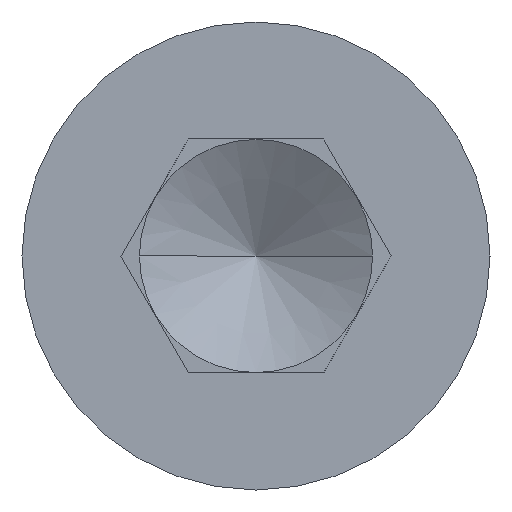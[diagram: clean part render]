
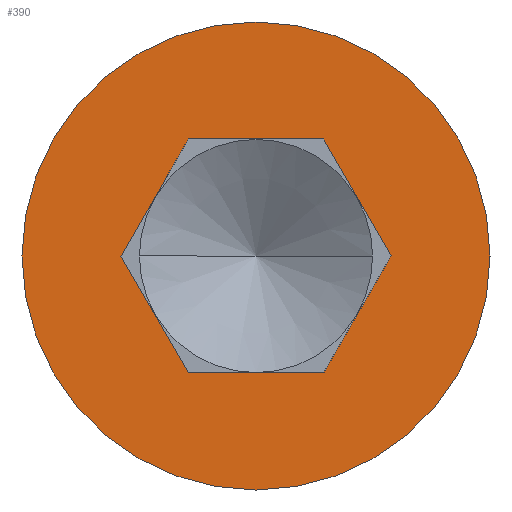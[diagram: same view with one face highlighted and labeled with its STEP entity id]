
A CAD part, left-side view. The second image highlights one B-rep face of the part: STEP entity #390.
In plain terms, the highlighted planar face has unit normal (-1, 0, 0).
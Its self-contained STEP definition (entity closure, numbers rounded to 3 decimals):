
#7 = DIRECTION ( 'NONE',  ( 0., -0.5, -0.866 ) ) ;
#12 = VERTEX_POINT ( 'NONE', #63 ) ;
#23 = VECTOR ( 'NONE', #191, 1000. ) ;
#26 = EDGE_CURVE ( 'NONE', #111, #368, #434, .T. ) ;
#27 = DIRECTION ( 'NONE',  ( 0., 0.5, -0.866 ) ) ;
#50 = VERTEX_POINT ( 'NONE', #158 ) ;
#55 = VECTOR ( 'NONE', #252, 1000. ) ;
#59 = LINE ( 'NONE', #425, #387 ) ;
#63 = CARTESIAN_POINT ( 'NONE',  ( -6., 1.443, -2.5 ) ) ;
#64 = VECTOR ( 'NONE', #72, 1000. ) ;
#67 = FACE_OUTER_BOUND ( 'NONE', #367, .T. ) ;
#70 = ORIENTED_EDGE ( 'NONE', *, *, #204, .F. ) ;
#72 = DIRECTION ( 'NONE',  ( 0., 0.5, 0.866 ) ) ;
#75 = AXIS2_PLACEMENT_3D ( 'NONE', #563, #427, #178 ) ;
#77 = CARTESIAN_POINT ( 'NONE',  ( -6., 2.887, 0. ) ) ;
#84 = EDGE_CURVE ( 'NONE', #368, #166, #208, .T. ) ;
#91 = CIRCLE ( 'NONE', #364, 5. ) ;
#102 = DIRECTION ( 'NONE',  ( -1., 0., 0. ) ) ;
#105 = VERTEX_POINT ( 'NONE', #77 ) ;
#108 = CARTESIAN_POINT ( 'NONE',  ( -6., -1.443, -2.5 ) ) ;
#111 = VERTEX_POINT ( 'NONE', #213 ) ;
#117 = EDGE_CURVE ( 'NONE', #166, #50, #500, .T. ) ;
#120 = VECTOR ( 'NONE', #7, 1000. ) ;
#126 = CARTESIAN_POINT ( 'NONE',  ( -6., -2.887, 0. ) ) ;
#129 = CARTESIAN_POINT ( 'NONE',  ( -6., 0., 5. ) ) ;
#134 = PLANE ( 'NONE',  #75 ) ;
#158 = CARTESIAN_POINT ( 'NONE',  ( -6., 1.443, 2.5 ) ) ;
#166 = VERTEX_POINT ( 'NONE', #295 ) ;
#177 = CARTESIAN_POINT ( 'NONE',  ( -6., 0., 0. ) ) ;
#178 = DIRECTION ( 'NONE',  ( 0., 0., 1. ) ) ;
#191 = DIRECTION ( 'NONE',  ( 0., -1., 0. ) ) ;
#192 = FACE_BOUND ( 'NONE', #324, .T. ) ;
#204 = EDGE_CURVE ( 'NONE', #12, #111, #469, .T. ) ;
#208 = LINE ( 'NONE', #264, #64 ) ;
#213 = CARTESIAN_POINT ( 'NONE',  ( -6., -1.443, -2.5 ) ) ;
#217 = DIRECTION ( 'NONE',  ( 0., 0., 1. ) ) ;
#235 = LINE ( 'NONE', #286, #120 ) ;
#237 = ORIENTED_EDGE ( 'NONE', *, *, #567, .T. ) ;
#252 = DIRECTION ( 'NONE',  ( 0., 1., 0. ) ) ;
#264 = CARTESIAN_POINT ( 'NONE',  ( -6., -2.887, 0. ) ) ;
#284 = ORIENTED_EDGE ( 'NONE', *, *, #373, .T. ) ;
#286 = CARTESIAN_POINT ( 'NONE',  ( -6., 2.887, 0. ) ) ;
#292 = ORIENTED_EDGE ( 'NONE', *, *, #117, .F. ) ;
#295 = CARTESIAN_POINT ( 'NONE',  ( -6., -1.443, 2.5 ) ) ;
#318 = ORIENTED_EDGE ( 'NONE', *, *, #505, .F. ) ;
#324 = EDGE_LOOP ( 'NONE', ( #292, #514, #506, #70, #318, #415 ) ) ;
#347 = CARTESIAN_POINT ( 'NONE',  ( -6., 0., -5. ) ) ;
#351 = CARTESIAN_POINT ( 'NONE',  ( -6., 0., 0. ) ) ;
#362 = DIRECTION ( 'NONE',  ( 0., -0.5, 0.866 ) ) ;
#364 = AXIS2_PLACEMENT_3D ( 'NONE', #351, #102, #397 ) ;
#367 = EDGE_LOOP ( 'NONE', ( #284, #237 ) ) ;
#368 = VERTEX_POINT ( 'NONE', #126 ) ;
#373 = EDGE_CURVE ( 'NONE', #381, #544, #533, .T. ) ;
#381 = VERTEX_POINT ( 'NONE', #129 ) ;
#387 = VECTOR ( 'NONE', #27, 1000. ) ;
#390 = ADVANCED_FACE ( 'NONE', ( #192, #67 ), #134, .T. ) ;
#397 = DIRECTION ( 'NONE',  ( 0., 0., 1. ) ) ;
#409 = EDGE_CURVE ( 'NONE', #50, #105, #59, .T. ) ;
#415 = ORIENTED_EDGE ( 'NONE', *, *, #409, .F. ) ;
#425 = CARTESIAN_POINT ( 'NONE',  ( -6., 1.443, 2.5 ) ) ;
#427 = DIRECTION ( 'NONE',  ( -1., 0., 0. ) ) ;
#432 = AXIS2_PLACEMENT_3D ( 'NONE', #177, #471, #217 ) ;
#434 = LINE ( 'NONE', #108, #553 ) ;
#469 = LINE ( 'NONE', #490, #23 ) ;
#471 = DIRECTION ( 'NONE',  ( -1., 0., 0. ) ) ;
#490 = CARTESIAN_POINT ( 'NONE',  ( -6., 1.443, -2.5 ) ) ;
#500 = LINE ( 'NONE', #513, #55 ) ;
#505 = EDGE_CURVE ( 'NONE', #105, #12, #235, .T. ) ;
#506 = ORIENTED_EDGE ( 'NONE', *, *, #26, .F. ) ;
#513 = CARTESIAN_POINT ( 'NONE',  ( -6., -1.443, 2.5 ) ) ;
#514 = ORIENTED_EDGE ( 'NONE', *, *, #84, .F. ) ;
#533 = CIRCLE ( 'NONE', #432, 5. ) ;
#544 = VERTEX_POINT ( 'NONE', #347 ) ;
#553 = VECTOR ( 'NONE', #362, 1000. ) ;
#563 = CARTESIAN_POINT ( 'NONE',  ( -6., 0., 0. ) ) ;
#567 = EDGE_CURVE ( 'NONE', #544, #381, #91, .T. ) ;
